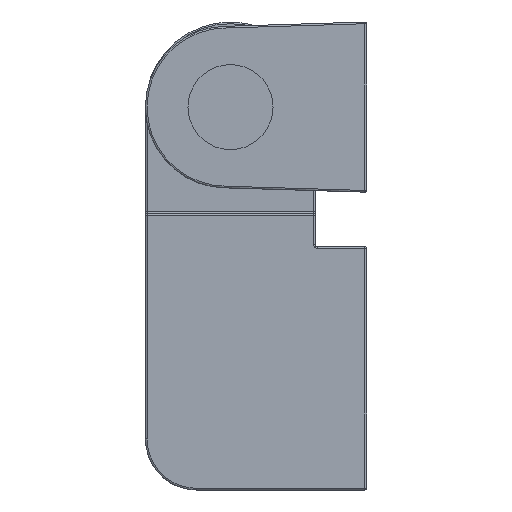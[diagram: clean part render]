
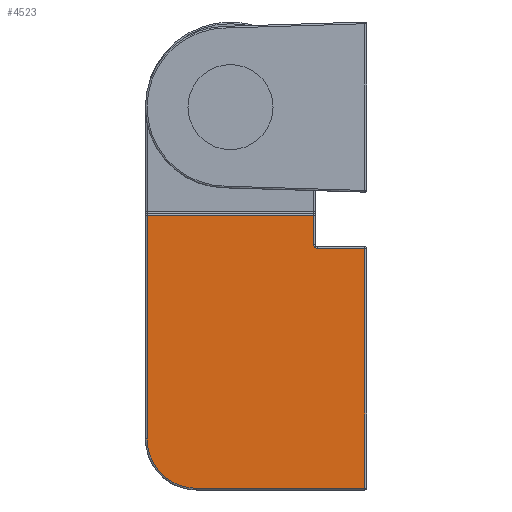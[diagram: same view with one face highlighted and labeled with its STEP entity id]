
A CAD part, left-side view. The second image highlights one B-rep face of the part: STEP entity #4523.
In plain terms, the highlighted planar face has unit normal (-1, 0, 0) as drawn and (0, 0, 1) by its records, which use the part's own axes.
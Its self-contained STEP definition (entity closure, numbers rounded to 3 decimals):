
#145 = LINE ( 'NONE', #540, #4414 ) ;
#277 = LINE ( 'NONE', #329, #3087 ) ;
#286 = ORIENTED_EDGE ( 'NONE', *, *, #2187, .T. ) ;
#329 = CARTESIAN_POINT ( 'NONE',  ( -0.1, 10., 15. ) ) ;
#332 = DIRECTION ( 'NONE',  ( -1., 0., 0. ) ) ;
#523 = CARTESIAN_POINT ( 'NONE',  ( -0.1, 2.9, 15. ) ) ;
#540 = CARTESIAN_POINT ( 'NONE',  ( 1.85, 10., 15. ) ) ;
#655 = DIRECTION ( 'NONE',  ( 1., 0., 0. ) ) ;
#672 = CARTESIAN_POINT ( 'NONE',  ( -0.1, 0.1, 15. ) ) ;
#689 = ORIENTED_EDGE ( 'NONE', *, *, #806, .T. ) ;
#690 = DIRECTION ( 'NONE',  ( 0., 0., -1. ) ) ;
#806 = EDGE_CURVE ( 'NONE', #3984, #944, #1385, .T. ) ;
#842 = VECTOR ( 'NONE', #655, 1000. ) ;
#944 = VERTEX_POINT ( 'NONE', #672 ) ;
#974 = CARTESIAN_POINT ( 'NONE',  ( -14.2, 0.1, 15. ) ) ;
#1015 = PLANE ( 'NONE',  #4085 ) ;
#1066 = DIRECTION ( 'NONE',  ( -1., 0., 0. ) ) ;
#1165 = CARTESIAN_POINT ( 'NONE',  ( -14.2, 10., 15. ) ) ;
#1184 = AXIS2_PLACEMENT_3D ( 'NONE', #4910, #2266, #332 ) ;
#1218 = VERTEX_POINT ( 'NONE', #523 ) ;
#1224 = ORIENTED_EDGE ( 'NONE', *, *, #2279, .T. ) ;
#1363 = EDGE_CURVE ( 'NONE', #4215, #1218, #3821, .T. ) ;
#1385 = LINE ( 'NONE', #3299, #842 ) ;
#1459 = CARTESIAN_POINT ( 'NONE',  ( -11.3, 10., 15. ) ) ;
#1472 = CARTESIAN_POINT ( 'NONE',  ( 0.1, 3.1, 15. ) ) ;
#1481 = LINE ( 'NONE', #3019, #1677 ) ;
#1670 = DIRECTION ( 'NONE',  ( 0., 1., 0. ) ) ;
#1677 = VECTOR ( 'NONE', #4559, 1000. ) ;
#1699 = CARTESIAN_POINT ( 'NONE',  ( -11.3, 3.1, 15. ) ) ;
#1705 = VERTEX_POINT ( 'NONE', #2819 ) ;
#1800 = CARTESIAN_POINT ( 'NONE',  ( -11.3, 12.9, 15. ) ) ;
#1821 = EDGE_CURVE ( 'NONE', #944, #1218, #277, .T. ) ;
#2002 = VERTEX_POINT ( 'NONE', #1165 ) ;
#2029 = ORIENTED_EDGE ( 'NONE', *, *, #2462, .T. ) ;
#2127 = LINE ( 'NONE', #1699, #4809 ) ;
#2187 = EDGE_CURVE ( 'NONE', #4672, #2776, #4890, .T. ) ;
#2202 = FACE_OUTER_BOUND ( 'NONE', #3540, .T. ) ;
#2266 = DIRECTION ( 'NONE',  ( 0., 0., 1. ) ) ;
#2279 = EDGE_CURVE ( 'NONE', #2002, #3984, #1481, .T. ) ;
#2462 = EDGE_CURVE ( 'NONE', #1705, #4672, #145, .T. ) ;
#2520 = EDGE_CURVE ( 'NONE', #4215, #1705, #2127, .T. ) ;
#2661 = EDGE_CURVE ( 'NONE', #2776, #2002, #3690, .T. ) ;
#2664 = ORIENTED_EDGE ( 'NONE', *, *, #1363, .F. ) ;
#2776 = VERTEX_POINT ( 'NONE', #3086 ) ;
#2819 = CARTESIAN_POINT ( 'NONE',  ( 1.85, 3.1, 15. ) ) ;
#2838 = ORIENTED_EDGE ( 'NONE', *, *, #1821, .T. ) ;
#2993 = DIRECTION ( 'NONE',  ( -1., 0., 0. ) ) ;
#3019 = CARTESIAN_POINT ( 'NONE',  ( -14.2, 10., 15. ) ) ;
#3086 = CARTESIAN_POINT ( 'NONE',  ( -11.3, 12.9, 15. ) ) ;
#3087 = VECTOR ( 'NONE', #4954, 1000. ) ;
#3299 = CARTESIAN_POINT ( 'NONE',  ( -11.3, 0.1, 15. ) ) ;
#3497 = CARTESIAN_POINT ( 'NONE',  ( 1.85, 12.9, 15. ) ) ;
#3540 = EDGE_LOOP ( 'NONE', ( #286, #3705, #1224, #689, #2838, #2664, #4192, #2029 ) ) ;
#3690 = CIRCLE ( 'NONE', #1184, 2.9 ) ;
#3700 = CARTESIAN_POINT ( 'NONE',  ( 0.1, 2.9, 15. ) ) ;
#3705 = ORIENTED_EDGE ( 'NONE', *, *, #2661, .T. ) ;
#3815 = VECTOR ( 'NONE', #2993, 1000. ) ;
#3821 = CIRCLE ( 'NONE', #4071, 0.2 ) ;
#3962 = DIRECTION ( 'NONE',  ( 1., 0., 0. ) ) ;
#3984 = VERTEX_POINT ( 'NONE', #974 ) ;
#4071 = AXIS2_PLACEMENT_3D ( 'NONE', #3700, #4476, #4102 ) ;
#4085 = AXIS2_PLACEMENT_3D ( 'NONE', #1459, #690, #1066 ) ;
#4102 = DIRECTION ( 'NONE',  ( -1., 0., 0. ) ) ;
#4192 = ORIENTED_EDGE ( 'NONE', *, *, #2520, .T. ) ;
#4215 = VERTEX_POINT ( 'NONE', #1472 ) ;
#4414 = VECTOR ( 'NONE', #1670, 1000. ) ;
#4476 = DIRECTION ( 'NONE',  ( 0., 0., 1. ) ) ;
#4523 = ADVANCED_FACE ( 'NONE', ( #2202 ), #1015, .F. ) ;
#4559 = DIRECTION ( 'NONE',  ( 0., -1., 0. ) ) ;
#4672 = VERTEX_POINT ( 'NONE', #3497 ) ;
#4809 = VECTOR ( 'NONE', #3962, 1000. ) ;
#4890 = LINE ( 'NONE', #1800, #3815 ) ;
#4910 = CARTESIAN_POINT ( 'NONE',  ( -11.3, 10., 15. ) ) ;
#4954 = DIRECTION ( 'NONE',  ( 0., 1., 0. ) ) ;
